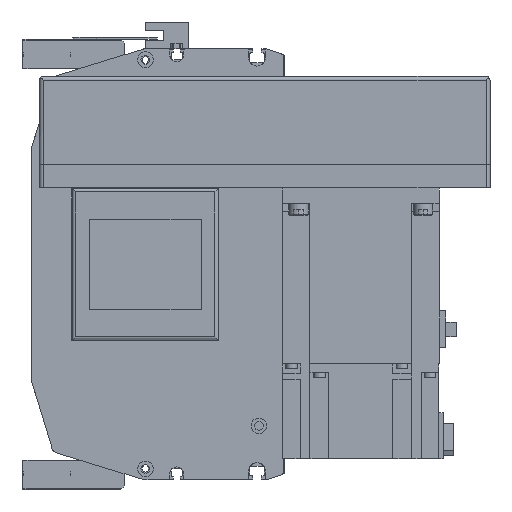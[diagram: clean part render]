
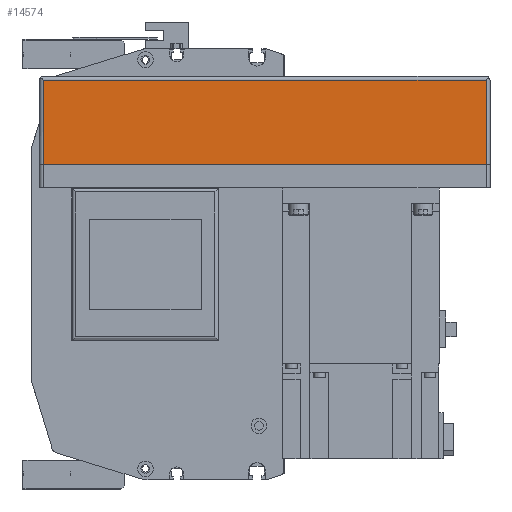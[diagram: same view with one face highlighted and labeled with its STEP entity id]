
A CAD part, left-side view. The second image highlights one B-rep face of the part: STEP entity #14574.
In plain terms, the highlighted planar face has unit normal (-1, 0, 0) as drawn and (0, -1, 0) by its records, which use the part's own axes.
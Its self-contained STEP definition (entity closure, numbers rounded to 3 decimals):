
#2363=ORIENTED_EDGE('',*,*,#5874,.F.);
#2364=ORIENTED_EDGE('',*,*,#5877,.T.);
#2365=ORIENTED_EDGE('',*,*,#5878,.T.);
#2366=ORIENTED_EDGE('',*,*,#5879,.F.);
#5874=EDGE_CURVE('',#7757,#7758,#9269,.T.);
#5877=EDGE_CURVE('',#7757,#7760,#9271,.T.);
#5878=EDGE_CURVE('',#7760,#7761,#9272,.T.);
#5879=EDGE_CURVE('',#7758,#7761,#9273,.T.);
#7757=VERTEX_POINT('',#22695);
#7758=VERTEX_POINT('',#22697);
#7760=VERTEX_POINT('',#22703);
#7761=VERTEX_POINT('',#22705);
#9269=LINE('',#22696,#10616);
#9271=LINE('',#22702,#10618);
#9272=LINE('',#22704,#10619);
#9273=LINE('',#22706,#10620);
#10616=VECTOR('',#18124,1000.);
#10618=VECTOR('',#18130,1000.);
#10619=VECTOR('',#18131,1000.);
#10620=VECTOR('',#18132,1000.);
#11788=EDGE_LOOP('',(#2363,#2364,#2365,#2366));
#12943=FACE_BOUND('',#11788,.T.);
#13954=PLANE('',#15626);
#14574=ADVANCED_FACE('',(#12943),#13954,.T.);
#15626=AXIS2_PLACEMENT_3D('',#22701,#18128,#18129);
#18124=DIRECTION('',(0.,0.,1.));
#18128=DIRECTION('',(0.,-1.,0.));
#18129=DIRECTION('',(0.,0.,-1.));
#18130=DIRECTION('',(1.,0.,0.));
#18131=DIRECTION('',(0.,0.,1.));
#18132=DIRECTION('',(1.,0.,0.));
#22695=CARTESIAN_POINT('',(-228.,-54.,-55.));
#22696=CARTESIAN_POINT('',(-228.,-54.,-57.));
#22697=CARTESIAN_POINT('',(-228.,-54.,-12.));
#22701=CARTESIAN_POINT('',(-228.,-54.,-57.));
#22702=CARTESIAN_POINT('',(-230.,-54.,-55.));
#22703=CARTESIAN_POINT('',(-2.,-54.,-55.));
#22704=CARTESIAN_POINT('',(-2.,-54.,-57.));
#22705=CARTESIAN_POINT('',(-2.,-54.,-12.));
#22706=CARTESIAN_POINT('',(-228.,-54.,-12.));
